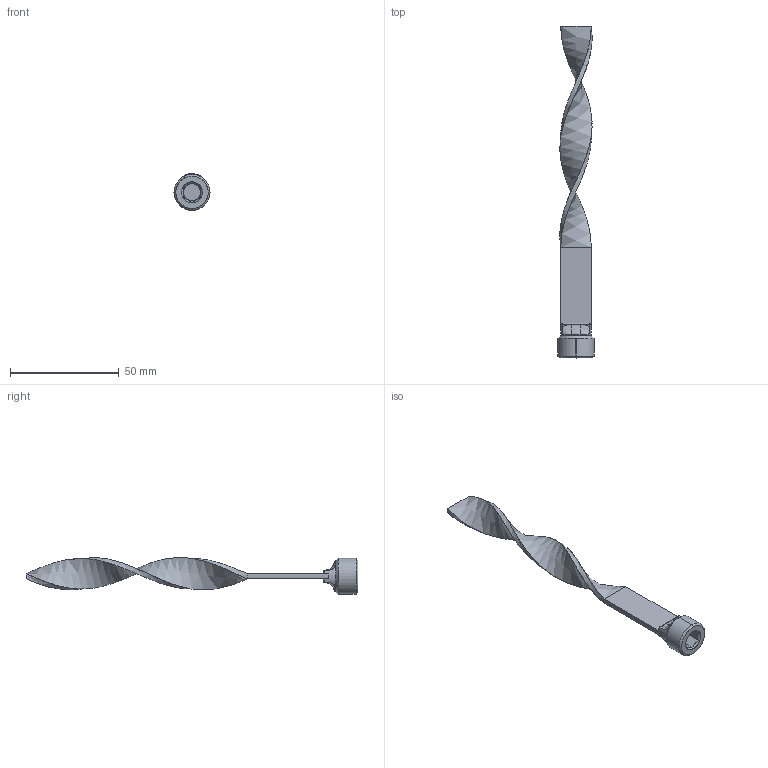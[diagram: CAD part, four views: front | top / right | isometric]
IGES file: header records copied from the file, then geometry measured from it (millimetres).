
Start section: SolidWorks IGES file using analytic representation for surfaces
Global section: file name: C:\Users\365admin\AppData\Local\Temp\InFlowConvert3DWorking\TB37L6.igs; native system: SolidWorks 2020; preprocessor: SolidWorks 2020; author: 365admin; date: 230309.104741; units: inch
Bounding box: 16.54 x 152.4 x 16.87 mm (x, y, z)
Surface area: 5876.5 mm2 (no closed solid volume)
Topology: 0 solids, 0 shells, 64 faces, 729 edges, 729 vertices
Faces by surface type: bspline 48, revolution 16
